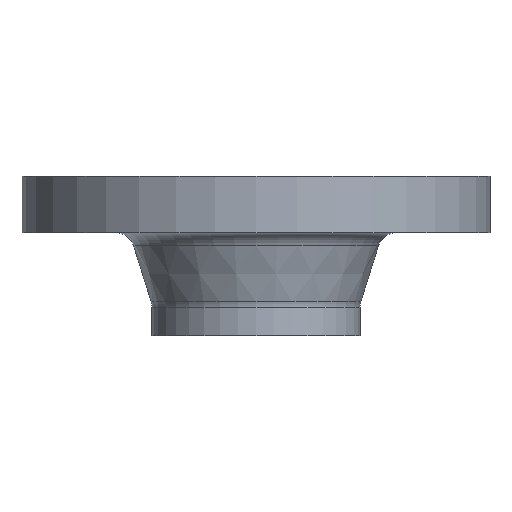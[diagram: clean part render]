
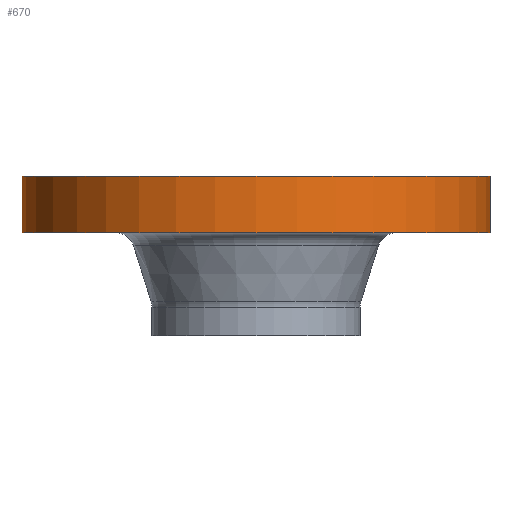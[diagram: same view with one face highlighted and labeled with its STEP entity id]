
A CAD part, front view. The second image highlights one B-rep face of the part: STEP entity #670.
In plain terms, the highlighted cylindrical face has radius 100 mm (diameter 200 mm), a partial arc.
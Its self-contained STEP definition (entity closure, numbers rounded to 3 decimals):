
#14 = EDGE_LOOP ( 'NONE', ( #612, #229, #592, #506 ) ) ;
#49 = EDGE_CURVE ( 'NONE', #266, #181, #211, .T. ) ;
#63 = AXIS2_PLACEMENT_3D ( 'NONE', #477, #164, #648 ) ;
#80 = CYLINDRICAL_SURFACE ( 'NONE', #608, 100. ) ;
#98 = DIRECTION ( 'NONE',  ( 0., 0., 1. ) ) ;
#133 = VECTOR ( 'NONE', #632, 1000. ) ;
#138 = DIRECTION ( 'NONE',  ( 1., 0., 0. ) ) ;
#164 = DIRECTION ( 'NONE',  ( 0., 0., 1. ) ) ;
#181 = VERTEX_POINT ( 'NONE', #934 ) ;
#208 = DIRECTION ( 'NONE',  ( 1., 0., 0. ) ) ;
#211 = LINE ( 'NONE', #288, #133 ) ;
#219 = CARTESIAN_POINT ( 'NONE',  ( -100., 0., -24. ) ) ;
#229 = ORIENTED_EDGE ( 'NONE', *, *, #487, .T. ) ;
#266 = VERTEX_POINT ( 'NONE', #920 ) ;
#288 = CARTESIAN_POINT ( 'NONE',  ( 100., 0., -68. ) ) ;
#370 = CIRCLE ( 'NONE', #63, 100. ) ;
#410 = VERTEX_POINT ( 'NONE', #219 ) ;
#421 = DIRECTION ( 'NONE',  ( 0., 0., 1. ) ) ;
#457 = CARTESIAN_POINT ( 'NONE',  ( -100., 0., -68. ) ) ;
#459 = VERTEX_POINT ( 'NONE', #474 ) ;
#474 = CARTESIAN_POINT ( 'NONE',  ( -100., 0., 0. ) ) ;
#477 = CARTESIAN_POINT ( 'NONE',  ( 0., 0., -24. ) ) ;
#487 = EDGE_CURVE ( 'NONE', #410, #266, #370, .T. ) ;
#506 = ORIENTED_EDGE ( 'NONE', *, *, #815, .F. ) ;
#530 = VECTOR ( 'NONE', #98, 1000. ) ;
#540 = AXIS2_PLACEMENT_3D ( 'NONE', #553, #680, #208 ) ;
#548 = CIRCLE ( 'NONE', #540, 100. ) ;
#553 = CARTESIAN_POINT ( 'NONE',  ( 0., 0., 0. ) ) ;
#592 = ORIENTED_EDGE ( 'NONE', *, *, #49, .T. ) ;
#605 = FACE_OUTER_BOUND ( 'NONE', #14, .T. ) ;
#608 = AXIS2_PLACEMENT_3D ( 'NONE', #750, #421, #138 ) ;
#612 = ORIENTED_EDGE ( 'NONE', *, *, #831, .F. ) ;
#632 = DIRECTION ( 'NONE',  ( 0., 0., 1. ) ) ;
#648 = DIRECTION ( 'NONE',  ( 1., 0., 0. ) ) ;
#670 = ADVANCED_FACE ( 'NONE', ( #605 ), #80, .T. ) ;
#680 = DIRECTION ( 'NONE',  ( 0., 0., 1. ) ) ;
#750 = CARTESIAN_POINT ( 'NONE',  ( 0., 0., -68. ) ) ;
#815 = EDGE_CURVE ( 'NONE', #459, #181, #548, .T. ) ;
#831 = EDGE_CURVE ( 'NONE', #410, #459, #889, .T. ) ;
#889 = LINE ( 'NONE', #457, #530 ) ;
#920 = CARTESIAN_POINT ( 'NONE',  ( 100., 0., -24. ) ) ;
#934 = CARTESIAN_POINT ( 'NONE',  ( 100., 0., 0. ) ) ;
